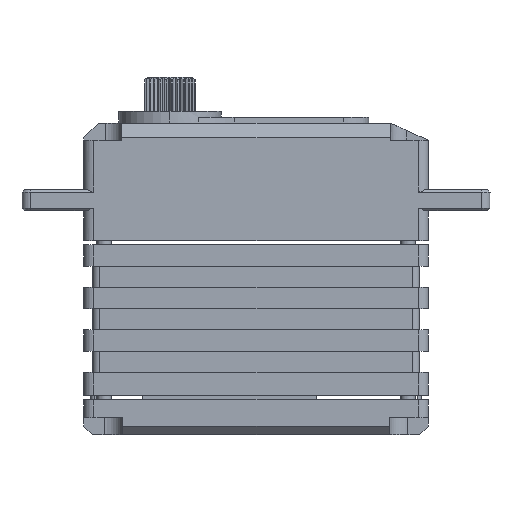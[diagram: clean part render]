
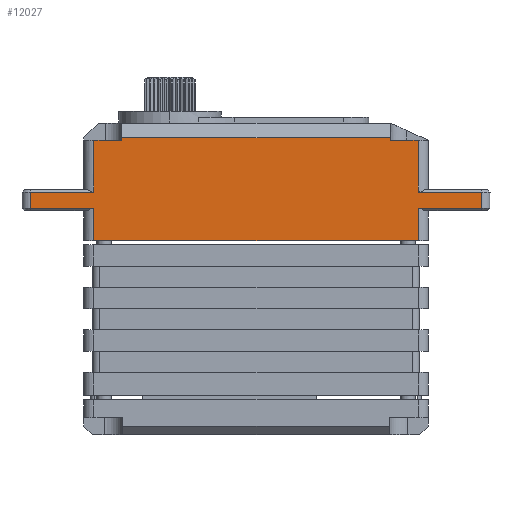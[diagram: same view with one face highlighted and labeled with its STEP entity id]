
A CAD part, front view. The second image highlights one B-rep face of the part: STEP entity #12027.
In plain terms, the highlighted planar face has unit normal (0, -1, 0).
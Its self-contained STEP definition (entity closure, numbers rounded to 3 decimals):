
#632 = CARTESIAN_POINT ( 'NONE',  ( -74.357, 3.983, 7.475 ) ) ;
#642 = VECTOR ( 'NONE', #4856, 1000. ) ;
#1532 = DIRECTION ( 'NONE',  ( 1., 0., 0. ) ) ;
#1546 = DIRECTION ( 'NONE',  ( -1., 0., 0. ) ) ;
#1647 = VECTOR ( 'NONE', #13535, 1000. ) ;
#2042 = VERTEX_POINT ( 'NONE', #10876 ) ;
#2152 = ORIENTED_EDGE ( 'NONE', *, *, #3173, .T. ) ;
#2423 = CARTESIAN_POINT ( 'NONE',  ( -77.607, 3.983, 19.568 ) ) ;
#2508 = CARTESIAN_POINT ( 'NONE',  ( -112.457, 3.983, 11.275 ) ) ;
#2609 = LINE ( 'NONE', #15187, #11109 ) ;
#2701 = CARTESIAN_POINT ( 'NONE',  ( -74.357, 3.983, 7.475 ) ) ;
#2747 = ORIENTED_EDGE ( 'NONE', *, *, #10547, .T. ) ;
#2883 = VECTOR ( 'NONE', #16654, 1000. ) ;
#3068 = VECTOR ( 'NONE', #15813, 1000. ) ;
#3108 = CARTESIAN_POINT ( 'NONE',  ( -112.457, 3.983, 19.275 ) ) ;
#3131 = VECTOR ( 'NONE', #18593, 1000. ) ;
#3173 = EDGE_CURVE ( 'NONE', #6426, #15764, #7120, .T. ) ;
#3649 = EDGE_CURVE ( 'NONE', #9930, #14257, #5098, .T. ) ;
#3750 = VERTEX_POINT ( 'NONE', #15621 ) ;
#3776 = LINE ( 'NONE', #10470, #7519 ) ;
#3789 = CARTESIAN_POINT ( 'NONE',  ( -109.207, 3.983, 19.568 ) ) ;
#4394 = DIRECTION ( 'NONE',  ( -1., 0., 0. ) ) ;
#4436 = CARTESIAN_POINT ( 'NONE',  ( -66.907, 3.983, 11.275 ) ) ;
#4686 = DIRECTION ( 'NONE',  ( -1., 0., 0. ) ) ;
#4796 = EDGE_CURVE ( 'NONE', #12927, #16584, #5433, .T. ) ;
#4856 = DIRECTION ( 'NONE',  ( 0., 0., -1. ) ) ;
#5098 = LINE ( 'NONE', #17431, #642 ) ;
#5307 = ORIENTED_EDGE ( 'NONE', *, *, #8917, .T. ) ;
#5335 = EDGE_CURVE ( 'NONE', #12927, #6426, #6891, .T. ) ;
#5433 = LINE ( 'NONE', #13886, #17855 ) ;
#5609 = DIRECTION ( 'NONE',  ( 0., 0., -1. ) ) ;
#5689 = LINE ( 'NONE', #14053, #17111 ) ;
#5698 = FACE_OUTER_BOUND ( 'NONE', #17659, .T. ) ;
#5755 = CARTESIAN_POINT ( 'NONE',  ( -109.207, 3.983, 19.275 ) ) ;
#5810 = ORIENTED_EDGE ( 'NONE', *, *, #4796, .F. ) ;
#6180 = CARTESIAN_POINT ( 'NONE',  ( -112.457, 3.983, 13.175 ) ) ;
#6426 = VERTEX_POINT ( 'NONE', #3108 ) ;
#6891 = LINE ( 'NONE', #11117, #18815 ) ;
#6906 = ORIENTED_EDGE ( 'NONE', *, *, #6936, .T. ) ;
#6936 = EDGE_CURVE ( 'NONE', #8811, #17948, #3776, .T. ) ;
#7120 = LINE ( 'NONE', #18169, #2883 ) ;
#7407 = ORIENTED_EDGE ( 'NONE', *, *, #7574, .T. ) ;
#7441 = EDGE_CURVE ( 'NONE', #8840, #19988, #10407, .T. ) ;
#7519 = VECTOR ( 'NONE', #11969, 1000. ) ;
#7574 = EDGE_CURVE ( 'NONE', #14342, #8840, #14085, .T. ) ;
#7980 = VERTEX_POINT ( 'NONE', #2508 ) ;
#8040 = DIRECTION ( 'NONE',  ( 1., 0., 0. ) ) ;
#8811 = VERTEX_POINT ( 'NONE', #15622 ) ;
#8840 = VERTEX_POINT ( 'NONE', #12821 ) ;
#8917 = EDGE_CURVE ( 'NONE', #9930, #16584, #14977, .T. ) ;
#9059 = ORIENTED_EDGE ( 'NONE', *, *, #20560, .T. ) ;
#9267 = DIRECTION ( 'NONE',  ( 0., 0., 1. ) ) ;
#9930 = VERTEX_POINT ( 'NONE', #2423 ) ;
#9965 = CARTESIAN_POINT ( 'NONE',  ( -74.357, 3.983, 11.275 ) ) ;
#10087 = LINE ( 'NONE', #18380, #12297 ) ;
#10119 = EDGE_CURVE ( 'NONE', #15764, #2042, #14881, .T. ) ;
#10295 = CARTESIAN_POINT ( 'NONE',  ( -112.457, 3.983, 7.475 ) ) ;
#10407 = LINE ( 'NONE', #632, #1647 ) ;
#10433 = AXIS2_PLACEMENT_3D ( 'NONE', #20353, #18838, #17181 ) ;
#10470 = CARTESIAN_POINT ( 'NONE',  ( -66.907, 3.983, 7.475 ) ) ;
#10547 = EDGE_CURVE ( 'NONE', #2042, #14091, #10087, .T. ) ;
#10876 = CARTESIAN_POINT ( 'NONE',  ( -119.907, 3.983, 13.175 ) ) ;
#11109 = VECTOR ( 'NONE', #5609, 1000. ) ;
#11117 = CARTESIAN_POINT ( 'NONE',  ( -66.907, 3.983, 19.275 ) ) ;
#11138 = CARTESIAN_POINT ( 'NONE',  ( -66.907, 3.983, 13.175 ) ) ;
#11144 = ORIENTED_EDGE ( 'NONE', *, *, #3649, .F. ) ;
#11168 = LINE ( 'NONE', #12723, #18845 ) ;
#11604 = ORIENTED_EDGE ( 'NONE', *, *, #15641, .T. ) ;
#11708 = ORIENTED_EDGE ( 'NONE', *, *, #18951, .T. ) ;
#11905 = VECTOR ( 'NONE', #4394, 1000. ) ;
#11963 = LINE ( 'NONE', #11138, #17662 ) ;
#11969 = DIRECTION ( 'NONE',  ( 0., 0., 1. ) ) ;
#12027 = ADVANCED_FACE ( 'NONE', ( #5698 ), #13982, .T. ) ;
#12142 = EDGE_CURVE ( 'NONE', #19988, #8811, #11168, .T. ) ;
#12219 = DIRECTION ( 'NONE',  ( 0., 0., -1. ) ) ;
#12297 = VECTOR ( 'NONE', #12219, 1000. ) ;
#12718 = CARTESIAN_POINT ( 'NONE',  ( -66.907, 3.983, 13.175 ) ) ;
#12723 = CARTESIAN_POINT ( 'NONE',  ( -66.907, 3.983, 11.275 ) ) ;
#12818 = LINE ( 'NONE', #4436, #20025 ) ;
#12821 = CARTESIAN_POINT ( 'NONE',  ( -74.357, 3.983, 7.475 ) ) ;
#12927 = VERTEX_POINT ( 'NONE', #5755 ) ;
#13535 = DIRECTION ( 'NONE',  ( 0., 0., 1. ) ) ;
#13744 = CARTESIAN_POINT ( 'NONE',  ( -119.907, 3.983, 11.275 ) ) ;
#13812 = DIRECTION ( 'NONE',  ( 0., 0., 1. ) ) ;
#13840 = ORIENTED_EDGE ( 'NONE', *, *, #5335, .T. ) ;
#13886 = CARTESIAN_POINT ( 'NONE',  ( -109.207, 3.983, 21.275 ) ) ;
#13982 = PLANE ( 'NONE',  #10433 ) ;
#14053 = CARTESIAN_POINT ( 'NONE',  ( -66.907, 3.983, 19.275 ) ) ;
#14085 = LINE ( 'NONE', #18530, #3131 ) ;
#14091 = VERTEX_POINT ( 'NONE', #13744 ) ;
#14229 = CARTESIAN_POINT ( 'NONE',  ( -77.607, 3.983, 19.275 ) ) ;
#14257 = VERTEX_POINT ( 'NONE', #14229 ) ;
#14342 = VERTEX_POINT ( 'NONE', #10295 ) ;
#14354 = CARTESIAN_POINT ( 'NONE',  ( -66.907, 3.983, 19.568 ) ) ;
#14358 = DIRECTION ( 'NONE',  ( -1., 0., 0. ) ) ;
#14881 = LINE ( 'NONE', #17234, #11905 ) ;
#14977 = LINE ( 'NONE', #14354, #3068 ) ;
#15187 = CARTESIAN_POINT ( 'NONE',  ( -112.457, 3.983, 7.475 ) ) ;
#15267 = ORIENTED_EDGE ( 'NONE', *, *, #15684, .T. ) ;
#15621 = CARTESIAN_POINT ( 'NONE',  ( -74.357, 3.983, 13.175 ) ) ;
#15622 = CARTESIAN_POINT ( 'NONE',  ( -66.907, 3.983, 11.275 ) ) ;
#15641 = EDGE_CURVE ( 'NONE', #3750, #18580, #17184, .T. ) ;
#15684 = EDGE_CURVE ( 'NONE', #17948, #3750, #11963, .T. ) ;
#15764 = VERTEX_POINT ( 'NONE', #6180 ) ;
#15813 = DIRECTION ( 'NONE',  ( -1., 0., 0. ) ) ;
#15860 = ORIENTED_EDGE ( 'NONE', *, *, #12142, .T. ) ;
#16584 = VERTEX_POINT ( 'NONE', #3789 ) ;
#16651 = CARTESIAN_POINT ( 'NONE',  ( -74.357, 3.983, 19.275 ) ) ;
#16654 = DIRECTION ( 'NONE',  ( 0., 0., -1. ) ) ;
#17111 = VECTOR ( 'NONE', #4686, 1000. ) ;
#17181 = DIRECTION ( 'NONE',  ( 0., 0., -1. ) ) ;
#17184 = LINE ( 'NONE', #2701, #19893 ) ;
#17234 = CARTESIAN_POINT ( 'NONE',  ( -66.907, 3.983, 13.175 ) ) ;
#17355 = ORIENTED_EDGE ( 'NONE', *, *, #19467, .T. ) ;
#17431 = CARTESIAN_POINT ( 'NONE',  ( -77.607, 3.983, 21.275 ) ) ;
#17659 = EDGE_LOOP ( 'NONE', ( #6906, #15267, #11604, #17355, #11144, #5307, #5810, #13840, #2152, #18405, #2747, #11708, #9059, #7407, #20109, #15860 ) ) ;
#17662 = VECTOR ( 'NONE', #14358, 1000. ) ;
#17855 = VECTOR ( 'NONE', #9267, 1000. ) ;
#17948 = VERTEX_POINT ( 'NONE', #12718 ) ;
#18169 = CARTESIAN_POINT ( 'NONE',  ( -112.457, 3.983, 7.475 ) ) ;
#18380 = CARTESIAN_POINT ( 'NONE',  ( -119.907, 3.983, 7.475 ) ) ;
#18405 = ORIENTED_EDGE ( 'NONE', *, *, #10119, .T. ) ;
#18530 = CARTESIAN_POINT ( 'NONE',  ( -66.907, 3.983, 7.475 ) ) ;
#18580 = VERTEX_POINT ( 'NONE', #16651 ) ;
#18593 = DIRECTION ( 'NONE',  ( 1., 0., 0. ) ) ;
#18815 = VECTOR ( 'NONE', #1546, 1000. ) ;
#18838 = DIRECTION ( 'NONE',  ( 0., -1., 0. ) ) ;
#18845 = VECTOR ( 'NONE', #1532, 1000. ) ;
#18951 = EDGE_CURVE ( 'NONE', #14091, #7980, #12818, .T. ) ;
#19467 = EDGE_CURVE ( 'NONE', #18580, #14257, #5689, .T. ) ;
#19893 = VECTOR ( 'NONE', #13812, 1000. ) ;
#19988 = VERTEX_POINT ( 'NONE', #9965 ) ;
#20025 = VECTOR ( 'NONE', #8040, 1000. ) ;
#20109 = ORIENTED_EDGE ( 'NONE', *, *, #7441, .T. ) ;
#20353 = CARTESIAN_POINT ( 'NONE',  ( -66.907, 3.983, 7.475 ) ) ;
#20560 = EDGE_CURVE ( 'NONE', #7980, #14342, #2609, .T. ) ;
